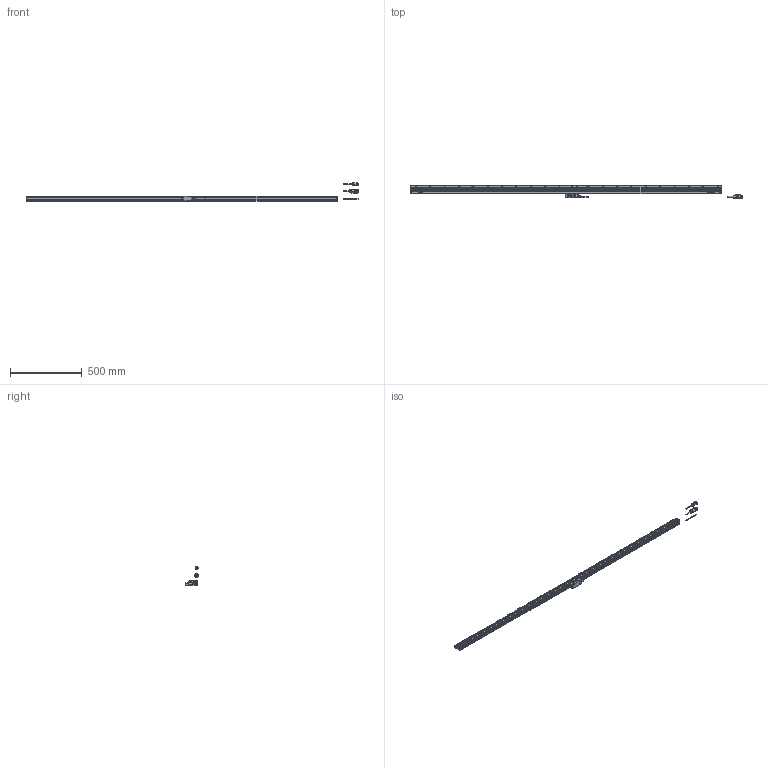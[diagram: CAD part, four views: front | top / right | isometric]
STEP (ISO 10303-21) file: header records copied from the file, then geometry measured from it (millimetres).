
FILE_DESCRIPTION(('Creo Elements/Direct Modeling STEP Export'),'2;1');
FILE_NAME('AT402E-2040.stp','2018-02-21T13:17:56',(''),(''),'Creo Elements/Direct Modeling STEP processor for AP214 (Solid Model)','Creo Elements/Direct Modeling 18.1B 29-Sep-2012 (C) Parametric Technology GmbH','');
FILE_SCHEMA(('AUTOMOTIVE_DESIGN { 1 0 10303 214 1 1 1 1 }'));
Length unit declared in the file: millimetre
Products named in the file (6): Scale_2040; Connector_typeA; Connector_typeB; Detector_Head; Connector_typeC; AT402E-2040
Assembly tree (5 placements, depth 2):
  AT402E-2040
    Connector_typeC
    Detector_Head
    Connector_typeB
    Connector_typeA
    Scale_2040
Bounding box: 2309.57 x 90 x 130.25 mm (x, y, z)
Volume: 3580130.3 mm3; surface area: 460887.6 mm2
Topology: 5 solids, 5 shells, 1579 faces, 4741 edges, 3200 vertices
Faces by surface type: plane 884, cylinder 561, torus 50, bspline 46, cone 26, sphere 12
Entity records: 59014 total; most frequent: CARTESIAN_POINT 16615, ORIENTED_EDGE 9482, DIRECTION 8289, EDGE_CURVE 4741, VERTEX_POINT 3200, VECTOR 2801, LINE 2801, AXIS2_PLACEMENT_3D 2744
